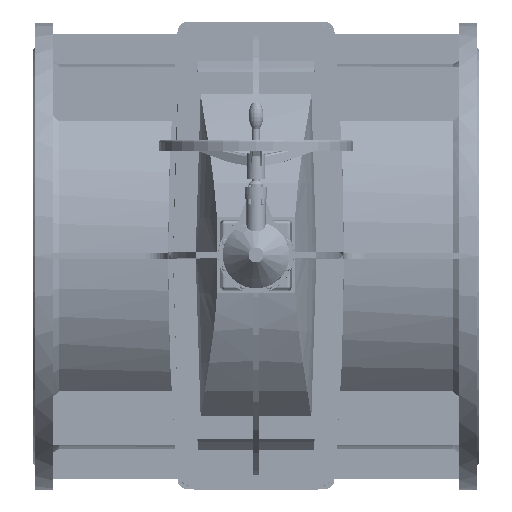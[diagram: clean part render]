
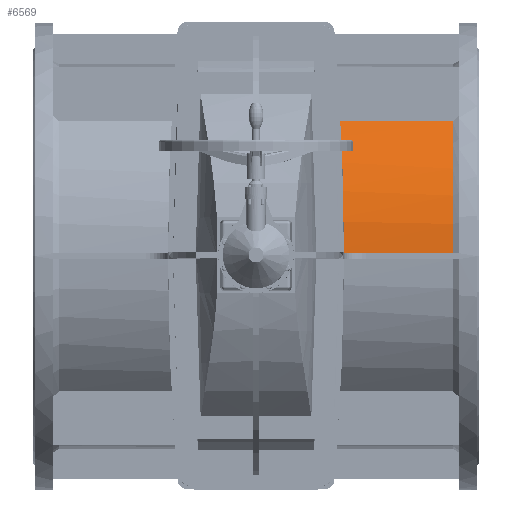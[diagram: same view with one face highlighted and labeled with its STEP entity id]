
A CAD part, top view. The second image highlights one B-rep face of the part: STEP entity #6569.
In plain terms, the highlighted cylindrical face has radius 516.667 mm (diameter 1033.33 mm), a partial arc.
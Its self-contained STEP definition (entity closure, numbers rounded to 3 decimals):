
#6569=ADVANCED_FACE('',(#12608),#12610,.T.);
#12608=FACE_BOUND('',#12609,.T.);
#12609=EDGE_LOOP('',(#28294,#28295,#28296,#28297));
#12610=CYLINDRICAL_SURFACE('',#12611,516.667);
#12611=AXIS2_PLACEMENT_3D('',#12612,#12613,#12614);
#12612=CARTESIAN_POINT('',(545.,0.,0.));
#12613=DIRECTION('',(-1.,0.,0.));
#12614=DIRECTION('',(0.,1.,0.));
#28294=ORIENTED_EDGE('',*,*,#35581,.F.);
#28295=ORIENTED_EDGE('',*,*,#35582,.T.);
#28296=ORIENTED_EDGE('',*,*,#35301,.F.);
#28297=ORIENTED_EDGE('',*,*,#35580,.T.);
#35301=EDGE_CURVE('',#39485,#39487,#39488,.T.);
#35580=EDGE_CURVE('',#39485,#39987,#39989,.T.);
#35581=EDGE_CURVE('',#39990,#39987,#39991,.F.);
#35582=EDGE_CURVE('',#39990,#39487,#39992,.F.);
#39485=VERTEX_POINT('',#48788);
#39487=VERTEX_POINT('',#48799);
#39488=LINE('',#48800,#48801);
#39987=VERTEX_POINT('',#50911);
#39989=CIRCLE('',#50922,516.667);
#39990=VERTEX_POINT('',#50926);
#39991=LINE('',#50927,#50928);
#39992=B_SPLINE_CURVE_WITH_KNOTS('',3,
(#50930,#50931,#50932,#50933,#50934,#50935,#50936,#50937,#50938,#50939,#50940,#50941,
#50942,#50943,#50944,#50945,#50946,#50947,#50948,#50949,#50950,#50951,#50952,#50953,
#50954,#50955,#50956,#50957,#50958,#50959,#50960,#50961,#50962,#50963,#50964,#50965,
#50966,#50967,#50968,#50969,#50970),
.UNSPECIFIED.,.F.,.F.,
(4,1,1,1,1,1,1,1,1,1,1,1,1,1,1,1,1,1,1,1,1,1,1,1,1,1,1,1,1,1,1,1,1,1,1,1,1,1,4),
(0.,0.011,0.023,0.036,0.057,
0.078,0.1,0.119,0.138,0.168,
0.199,0.231,0.256,0.279,0.302,
0.325,0.35,0.376,0.402,0.429,
0.457,0.485,0.513,0.542,0.581,
0.619,0.657,0.687,0.72,0.765,
0.808,0.85,0.877,0.901,0.922,
0.942,0.962,0.981,1.),
.UNSPECIFIED.);
#48788=CARTESIAN_POINT('',(528.333,8.333,516.599));
#48799=CARTESIAN_POINT('',(175.157,8.333,516.599));
#48800=CARTESIAN_POINT('',(528.333,8.333,516.599));
#48801=VECTOR('',#48802,1.);
#48802=DIRECTION('',(-1.,0.,0.));
#50911=CARTESIAN_POINT('',(528.333,362.978,367.684));
#50922=AXIS2_PLACEMENT_3D('',#50923,#50924,#50925);
#50923=CARTESIAN_POINT('',(528.333,0.,0.));
#50924=DIRECTION('',(-1.,0.,0.));
#50925=DIRECTION('',(0.,0.016,1.));
#50926=CARTESIAN_POINT('',(156.325,362.978,367.684));
#50927=CARTESIAN_POINT('',(528.333,362.978,367.684));
#50928=VECTOR('',#50929,1.);
#50929=DIRECTION('',(-1.,0.,0.));
#50930=CARTESIAN_POINT('',(175.157,8.333,516.599));
#50931=CARTESIAN_POINT('',(175.154,9.721,516.577));
#50932=CARTESIAN_POINT('',(175.145,12.694,516.517));
#50933=CARTESIAN_POINT('',(175.123,17.449,516.38));
#50934=CARTESIAN_POINT('',(175.087,23.546,516.145));
#50935=CARTESIAN_POINT('',(175.028,30.871,515.766));
#50936=CARTESIAN_POINT('',(174.94,39.311,515.193));
#50937=CARTESIAN_POINT('',(174.834,47.423,514.506));
#50938=CARTESIAN_POINT('',(174.712,55.288,513.718));
#50939=CARTESIAN_POINT('',(174.557,64.096,512.706));
#50940=CARTESIAN_POINT('',(174.343,74.525,511.31));
#50941=CARTESIAN_POINT('',(174.053,86.589,509.41));
#50942=CARTESIAN_POINT('',(173.739,97.956,507.338));
#50943=CARTESIAN_POINT('',(173.42,108.289,505.22));
#50944=CARTESIAN_POINT('',(173.116,117.336,503.194));
#50945=CARTESIAN_POINT('',(172.795,126.209,501.042));
#50946=CARTESIAN_POINT('',(172.446,135.227,498.686));
#50947=CARTESIAN_POINT('',(172.061,144.558,496.065));
#50948=CARTESIAN_POINT('',(171.633,154.259,493.137));
#50949=CARTESIAN_POINT('',(171.168,164.176,489.927));
#50950=CARTESIAN_POINT('',(170.666,174.277,486.426));
#50951=CARTESIAN_POINT('',(170.131,184.466,482.656));
#50952=CARTESIAN_POINT('',(169.561,194.763,478.595));
#50953=CARTESIAN_POINT('',(168.96,205.096,474.26));
#50954=CARTESIAN_POINT('',(168.26,216.572,469.148));
#50955=CARTESIAN_POINT('',(167.458,229.057,463.199));
#50956=CARTESIAN_POINT('',(166.548,242.456,456.327));
#50957=CARTESIAN_POINT('',(165.673,254.732,449.574));
#50958=CARTESIAN_POINT('',(164.822,266.184,442.879));
#50959=CARTESIAN_POINT('',(163.894,278.225,435.446));
#50960=CARTESIAN_POINT('',(162.83,291.465,426.724));
#50961=CARTESIAN_POINT('',(161.66,305.415,416.846));
#50962=CARTESIAN_POINT('',(160.632,317.197,407.913));
#50963=CARTESIAN_POINT('',(159.774,326.75,400.266));
#50964=CARTESIAN_POINT('',(159.111,333.982,394.241));
#50965=CARTESIAN_POINT('',(158.511,340.418,388.692));
#50966=CARTESIAN_POINT('',(157.949,346.346,383.418));
#50967=CARTESIAN_POINT('',(157.397,352.083,378.156));
#50968=CARTESIAN_POINT('',(156.857,357.612,372.93));
#50969=CARTESIAN_POINT('',(156.501,361.211,369.428));
#50970=CARTESIAN_POINT('',(156.325,362.978,367.684));
